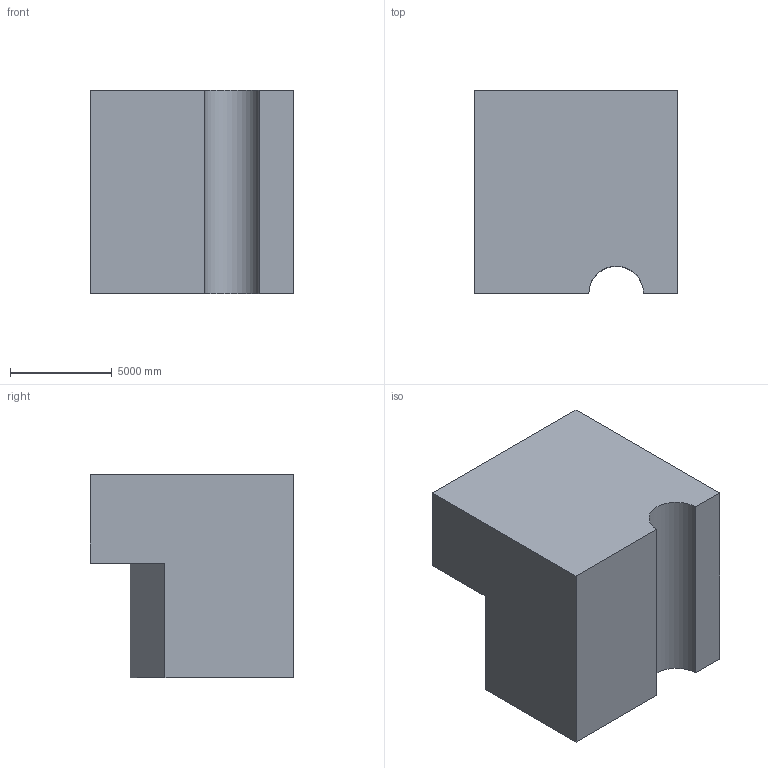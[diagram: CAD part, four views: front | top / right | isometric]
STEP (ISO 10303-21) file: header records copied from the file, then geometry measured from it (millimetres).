
FILE_DESCRIPTION (( 'STEP AP203' ), '1' );
FILE_NAME ('1129.STEP', '2022-08-18T12:52:31', ( 'user' ), ( '' ), 'SwSTEP 2.0', 'SolidWorks 2021', '' );
FILE_SCHEMA (( 'CONFIG_CONTROL_DESIGN' ));
Length unit declared in the file: centimetre
Products named in the file (1): 1129
Bounding box: 10000 x 10000 x 10000 mm (x, y, z)
Volume: 812915142590 mm3; surface area: 578787658.9 mm2
Topology: 1 solids, 1 shells, 10 faces, 24 edges, 16 vertices
Faces by surface type: plane 9, cylinder 1
Entity records: 367 total; most frequent: CARTESIAN_POINT 51, DIRECTION 48, ORIENTED_EDGE 48, EDGE_CURVE 24, VECTOR 22, LINE 22, VERTEX_POINT 16, AXIS2_PLACEMENT_3D 13
